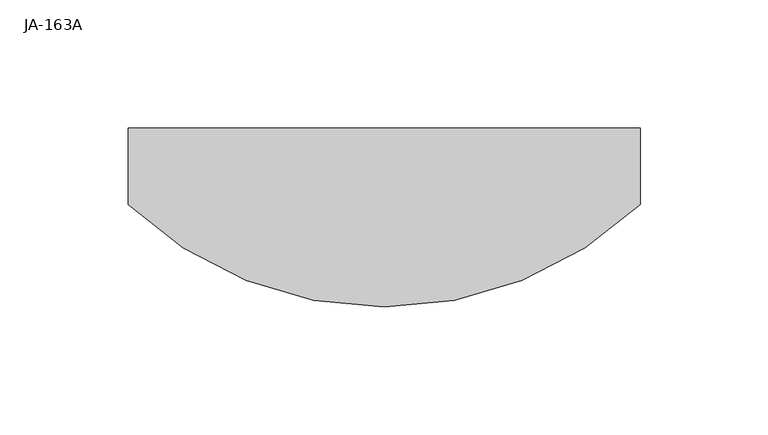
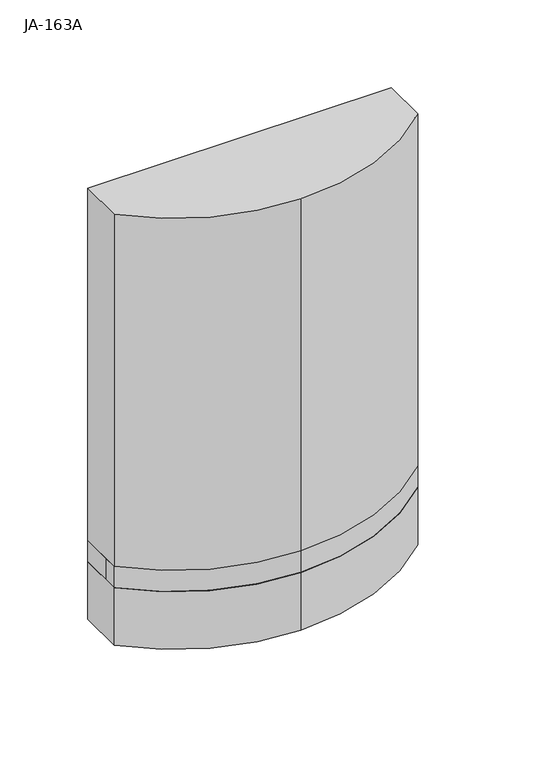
"""IFC4 building model written with IfcOpenShell, lengths in millimetres: proxy geometry, Sirény.CC : JA-163A."""

from ifc_helpers import new_model, si_unit, point, frame, frame_2d, origin, place, context, project, spatial, polyline, circle_curve, trimmed, segment, composite_curve, outline, extrude, source, transform, mapped, element, save


def ja_163a_e7fd9ec7(model_context):
    return source(origin(), model_context, "Body", "SweptSolid", [
        extrude(outline(composite_curve([segment(polyline([(-100.0, 0.0), (100.0, 0.0), (100.0, -30.0)]), True, "CONTINUOUS"), segment(trimmed(circle_curve(frame_2d((0.0, 75.0)), 145.0), [point((100.0, -30.0))], [point((0.0, -70.0))], False, "CARTESIAN"), True, "CONTINUOUS"), segment(trimmed(circle_curve(frame_2d((0.0, 75.0)), 145.0), [point((0.0, -70.0))], [point((-100.0, -30.0))], False, "CARTESIAN"), True, "CONTINUOUS"), segment(polyline([(-100.0, -30.0), (-100.0, 0.0)]), True, "CONTINUOUS")], self_intersect=False)), frame((0.0, 0.0, -95.0), z_axis=(0.0, 0.0, 1.0), x_axis=(1.0, 0.0, 0.0)), (0.0, 0.0, 1.0), 245.0),
        extrude(outline(composite_curve([segment(polyline([(-100.0, 0.0), (100.0, 0.0), (100.0, -30.0)]), True, "CONTINUOUS"), segment(trimmed(circle_curve(frame_2d((0.0, 75.0)), 145.0), [point((100.0, -30.0))], [point((0.0, -70.0))], False, "CARTESIAN"), True, "CONTINUOUS"), segment(trimmed(circle_curve(frame_2d((0.0, 75.0)), 145.0), [point((0.0, -70.0))], [point((-100.0, -30.0))], False, "CARTESIAN"), True, "CONTINUOUS"), segment(polyline([(-100.0, -30.0), (-100.0, 0.0)]), True, "CONTINUOUS")], self_intersect=False)), frame((0.0, 0.0, -150.0), z_axis=(0.0, 0.0, 1.0), x_axis=(1.0, 0.0, 0.0)), (0.0, 0.0, 1.0), 40.0),
        extrude(outline(polyline([(100.0, 0.0), (100.0, -20.4947164), (-100.0, -20.4947164), (-100.0, 0.0), (100.0, 0.0)])), frame((0.0, 0.0, -110.0), z_axis=(0.0, 0.0, 1.0), x_axis=(1.0, 0.0, 0.0)), (0.0, 0.0, 1.0), 15.0),
        extrude(outline(composite_curve([segment(polyline([(-100.0, -20.4947164), (100.0, -20.4947164), (100.0, -30.0)]), True, "CONTINUOUS"), segment(trimmed(circle_curve(frame_2d((0.0, 75.0)), 145.0), [point((100.0, -30.0))], [point((0.0, -70.0))], False, "CARTESIAN"), True, "CONTINUOUS"), segment(trimmed(circle_curve(frame_2d((0.0, 75.0)), 145.0), [point((0.0, -70.0))], [point((-100.0, -30.0))], False, "CARTESIAN"), True, "CONTINUOUS"), segment(polyline([(-100.0, -30.0), (-100.0, -20.4947164)]), True, "CONTINUOUS")], self_intersect=False)), frame((0.0, 0.0, -110.0), z_axis=(0.0, 0.0, 1.0), x_axis=(1.0, 0.0, 0.0)), (0.0, 0.0, 1.0), 15.0),
    ])


if __name__ == "__main__":
    model = new_model("IFC4")
    model_context = context("Model", 3, world=origin())
    ifc_project = project(units=[si_unit("LENGTHUNIT", "METRE", prefix="MILLI")], contexts=[model_context])
    site = spatial("IfcSite", under=ifc_project)
    building = spatial("IfcBuilding", under=site)
    placement = place(None, origin())
    ja_163a_shape = ja_163a_e7fd9ec7(model_context)
    element("IfcBuildingElementProxy", 1, Name="Sirény.CC : JA-163A", ObjectType="Sirény.CC : JA-163A", at=placement, inside=building, context=model_context, shape_type="MappedRepresentation", body=[
        mapped(ja_163a_shape, transform((0.0, 0.0, 0.0), x_axis=(1.0, 0.0, 0.0), y_axis=(0.0, 1.0, 0.0), z_axis=(0.0, 0.0, 1.0))),
    ])
    save(model, "model.ifc")
